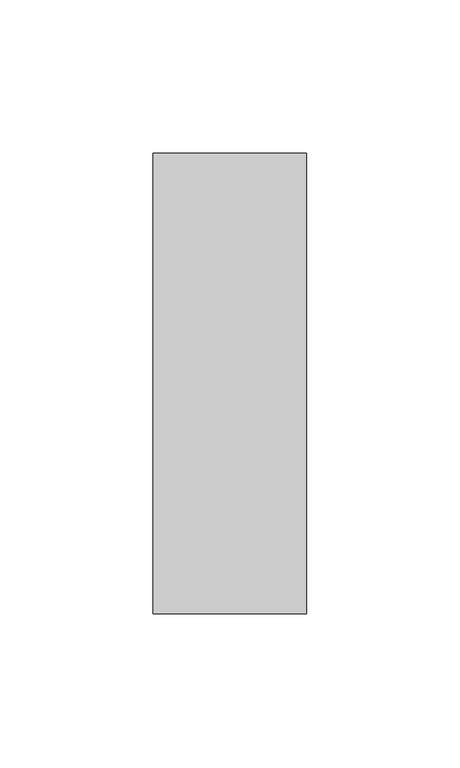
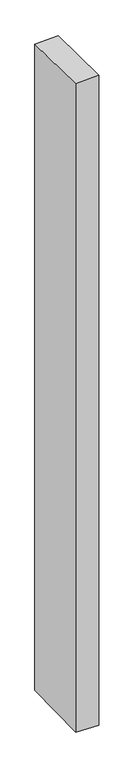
"""IFC4 building model written with IfcOpenShell, lengths in millimetres: member geometry, Прямоугольный импост : 50 x 150 мм."""

from ifc_helpers import new_model, si_unit, origin, place, context, project, spatial, faceted_brep, source, transform, mapped, element, save


def member_c630ad74(model_context):
    return source(origin(), model_context, "Body", "Brep", [
        faceted_brep([(-25.0, 75.0, -1.5355303), (25.0, 75.0, 0.1809999), (25.0, 75.0, -1460.9334701), (-25.0, 75.0, -1459.3740281), (-25.0, -75.0, -0.1809999), (-25.0, -75.0, -1463.1782233), (25.0, -75.0, 1.5355303), (25.0, -75.0, -1464.7376653)], [[[0, 1, 2, 3]], [[4, 0, 3, 5]], [[6, 4, 5, 7]], [[1, 6, 7, 2]], [[1, 0, 4, 6]], [[2, 7, 5, 3]]]),
    ])


if __name__ == "__main__":
    model = new_model("IFC4")
    model_context = context("Model", 3, world=origin())
    ifc_project = project(units=[si_unit("LENGTHUNIT", "METRE", prefix="MILLI")], contexts=[model_context])
    site = spatial("IfcSite", under=ifc_project)
    building = spatial("IfcBuilding", under=site)
    placement = place(None, origin())
    member_shape = member_c630ad74(model_context)
    element("IfcMember", 1, ObjectType="Прямоугольный импост : 50 x 150 мм", at=placement, inside=building, context=model_context, shape_type="MappedRepresentation", body=[
        mapped(member_shape, transform((0.0, 0.0, 0.0), x_axis=(1.0, 0.0, 0.0), y_axis=(0.0, 1.0, 0.0), z_axis=(0.0, 0.0, 1.0))),
    ])
    save(model, "model.ifc")
